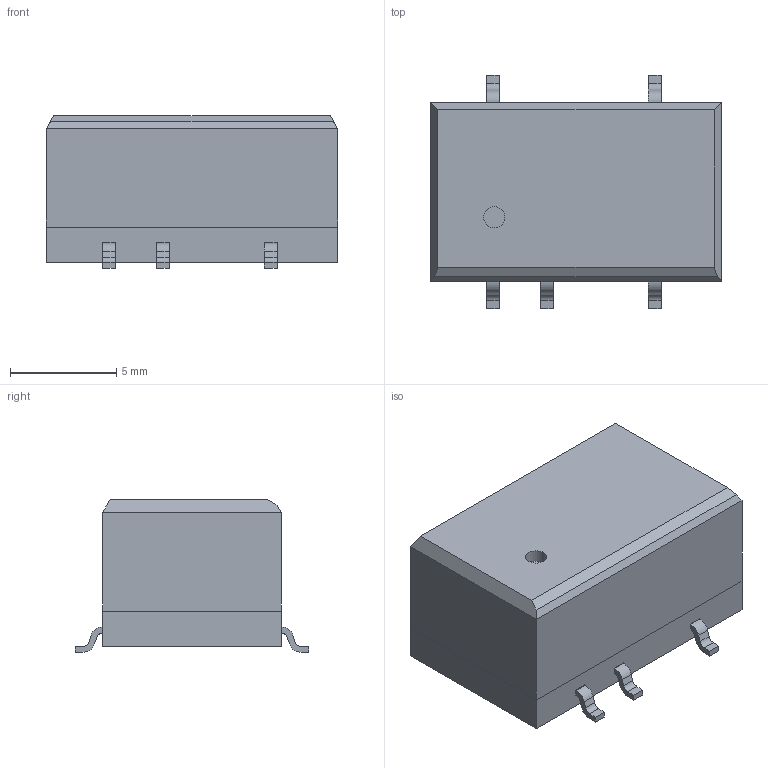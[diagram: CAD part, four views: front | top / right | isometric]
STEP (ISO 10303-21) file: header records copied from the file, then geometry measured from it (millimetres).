
FILE_DESCRIPTION(/* description */ (''),/* implementation_level */ '2;1');
FILE_NAME(/* name */ 'C:\Users\Calliope\Desktop\轉檔暫存用\TES 1(Single Output).stp',/* time_stamp */ '2024-07-17T17:44:19+08:00',/* author */ ('Calliope'),/* organization */ (''),/* preprocessor_version */ 'ST-DEVELOPER v16.1',/* originating_system */ 'Autodesk Inventor 2016',/* authorisation */ '');
FILE_SCHEMA (('AUTOMOTIVE_DESIGN { 1 0 10303 214 3 1 1 }'));
Length unit declared in the file: millimetre
Products named in the file (1): TES 1(Single Output)
Bounding box: 13.7 x 11 x 7.2 mm (x, y, z)
Volume: 539.3 mm3; surface area: 1010.6 mm2
Topology: 1 solids, 1 shells, 124 faces, 310 edges, 204 vertices
Faces by surface type: plane 102, cylinder 22
Full cylindrical faces by diameter (mm): 1 x2
Entity records: 3799 total; most frequent: CARTESIAN_POINT 637, ORIENTED_EDGE 616, DIRECTION 602, EDGE_CURVE 308, LINE 264, VECTOR 264, VERTEX_POINT 204, AXIS2_PLACEMENT_3D 169
